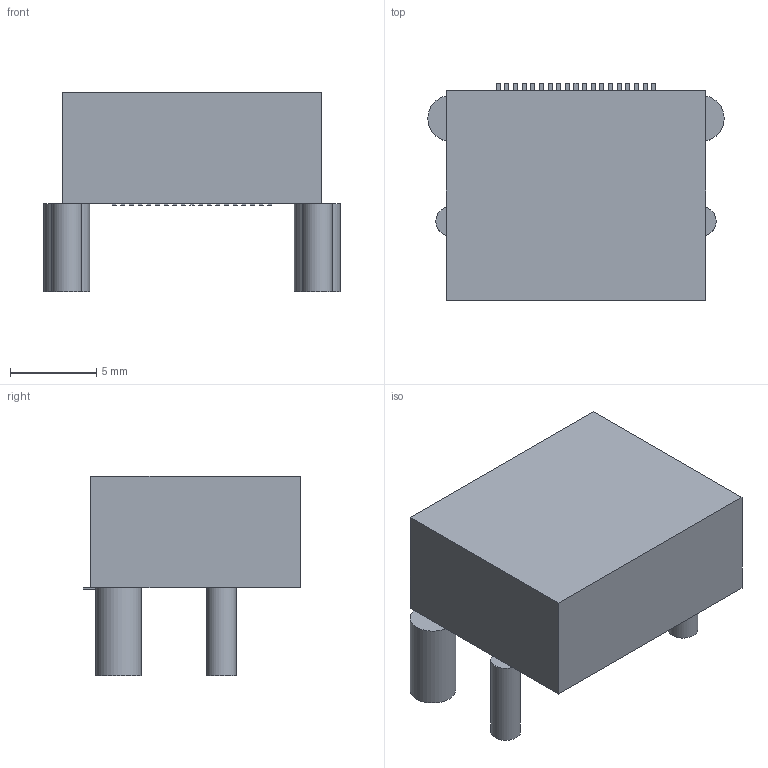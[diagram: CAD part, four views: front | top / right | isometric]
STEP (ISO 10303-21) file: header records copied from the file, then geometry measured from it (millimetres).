
FILE_DESCRIPTION(('FreeCAD Model'),'2;1');
FILE_NAME('/var/www/3D/0T/11164348.1.7.stp','2023-08-21T03:24:12',( 'Author'),(''),'Open CASCADE STEP processor 6.9','FreeCAD','Unknown' );
FILE_SCHEMA(('AUTOMOTIVE_DESIGN { 1 0 10303 214 1 1 1 1 }'));
Length unit declared in the file: millimetre
Products named in the file (4): ASSEMBLY; Body; Pins; Leads
Assembly tree (3 placements, depth 2):
  ASSEMBLY
    Body
    Pins
    Leads
Bounding box: 17.15 x 12.58 x 11.54 mm (x, y, z)
Volume: 1254.8 mm3; surface area: 919.3 mm2
Topology: 24 solids, 24 shells, 132 faces, 252 edges, 168 vertices
Faces by surface type: plane 128, cylinder 4
Full cylindrical faces by diameter (mm): 1.72 x2, 2.65 x2
Entity records: 6779 total; most frequent: CARTESIAN_POINT 1060, DIRECTION 1036, LINE 740, VECTOR 740, ORIENTED_EDGE 504, PCURVE 504, DEFINITIONAL_REPRESENTATION 504, EDGE_CURVE 252
